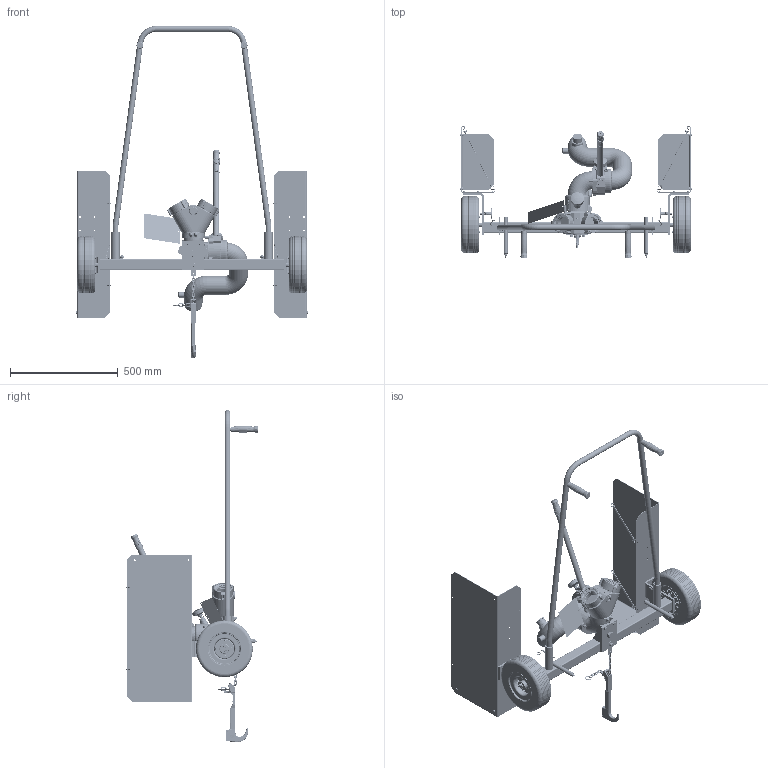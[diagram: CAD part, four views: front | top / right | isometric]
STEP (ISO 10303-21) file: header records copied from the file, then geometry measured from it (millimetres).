
FILE_DESCRIPTION((''),'2;1');
FILE_NAME('D18188_SW0001','2012-11-21T',('cleon'),(''),'PRO/ENGINEER BY PARAMETRIC TECHNOLOGY CORPORATION, 2011180','PRO/ENGINEER BY PARAMETRIC TECHNOLOGY CORPORATION, 2011180','');
FILE_SCHEMA(('CONFIG_CONTROL_DESIGN'));
Products named in the file (1): D18188_SW0001
Bounding box: 1076.45 x 616.93 x 1543.92 mm (x, y, z)
Surface area: 3585944.3 mm2 (no closed solid volume)
Topology: 0 solids, 479 shells, 3471 faces, 15325 edges, 12113 vertices
Faces by surface type: cylinder 1097, plane 965, torus 497, cone 471, bspline 386, sphere 55
Entity records: 210053 total; most frequent: CARTESIAN_POINT 91387, DIRECTION 23545, ORIENTED_EDGE 21557, EDGE_CURVE 15293, VERTEX_POINT 12113, VECTOR 8409, LINE 8409, AXIS2_PLACEMENT_3D 7568
